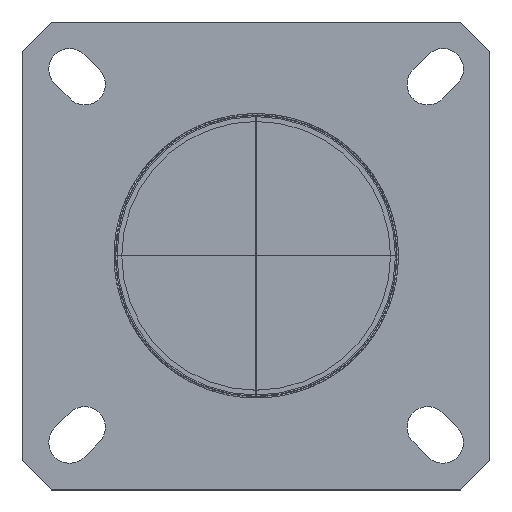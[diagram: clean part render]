
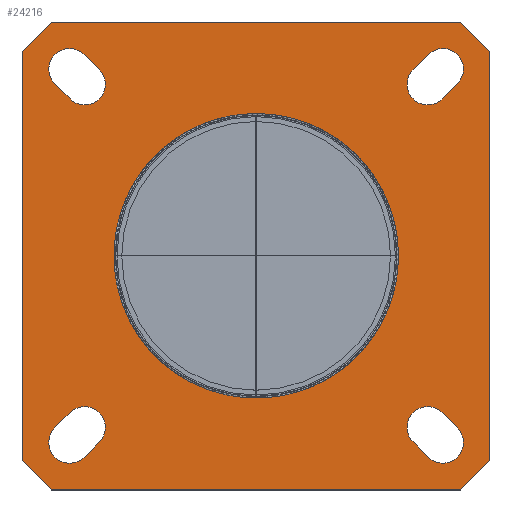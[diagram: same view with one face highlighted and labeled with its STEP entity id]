
A CAD part, top view. The second image highlights one B-rep face of the part: STEP entity #24216.
In plain terms, the highlighted planar face has unit normal (0, 0, 1).
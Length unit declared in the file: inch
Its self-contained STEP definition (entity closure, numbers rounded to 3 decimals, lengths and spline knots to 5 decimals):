
#6998=CARTESIAN_POINT('',(0.,0.,0.));
#6999=DIRECTION('',(0.,0.,1.));
#7000=DIRECTION('',(-1.,0.,0.));
#7001=AXIS2_PLACEMENT_3D('',#6998,#6999,#7000);
#10071=DIRECTION('',(0.707,0.707,0.));
#10072=VECTOR('',#10071,0.128);
#10073=CARTESIAN_POINT('',(-0.725,0.63349,0.));
#10074=LINE('',#10073,#10072);
#10075=DIRECTION('',(1.,0.,0.));
#10076=VECTOR('',#10075,1.26798);
#10077=CARTESIAN_POINT('',(-0.63449,0.724,0.));
#10078=LINE('',#10077,#10076);
#10079=DIRECTION('',(0.707,-0.707,0.));
#10080=VECTOR('',#10079,0.128);
#10081=CARTESIAN_POINT('',(0.63349,0.724,0.));
#10082=LINE('',#10081,#10080);
#10083=DIRECTION('',(0.,-1.,0.));
#10084=VECTOR('',#10083,1.26798);
#10085=CARTESIAN_POINT('',(0.724,0.63349,0.));
#10086=LINE('',#10085,#10084);
#10087=DIRECTION('',(-0.707,-0.707,0.));
#10088=VECTOR('',#10087,0.128);
#10089=CARTESIAN_POINT('',(0.724,-0.63449,0.));
#10090=LINE('',#10089,#10088);
#10091=DIRECTION('',(-1.,0.,0.));
#10092=VECTOR('',#10091,1.26798);
#10093=CARTESIAN_POINT('',(0.63349,-0.725,0.));
#10094=LINE('',#10093,#10092);
#10095=DIRECTION('',(-0.707,0.707,0.));
#10096=VECTOR('',#10095,0.128);
#10097=CARTESIAN_POINT('',(-0.63449,-0.725,0.));
#10098=LINE('',#10097,#10096);
#10099=DIRECTION('',(0.,1.,0.));
#10100=VECTOR('',#10099,1.26798);
#10101=CARTESIAN_POINT('',(-0.725,-0.63449,0.));
#10102=LINE('',#10101,#10100);
#10103=DIRECTION('',(-0.707,-0.707,0.));
#10104=VECTOR('',#10103,0.06647);
#10105=CARTESIAN_POINT('',(-0.57625,-0.48575,0.));
#10106=LINE('',#10105,#10104);
#10107=CARTESIAN_POINT('',(-0.578,-0.578,0.));
#10108=DIRECTION('',(0.,0.,1.));
#10109=DIRECTION('',(-0.707,0.707,0.));
#10110=AXIS2_PLACEMENT_3D('',#10107,#10108,#10109);
#10112=DIRECTION('',(0.707,0.707,0.));
#10113=VECTOR('',#10112,0.06647);
#10114=CARTESIAN_POINT('',(-0.53275,-0.62325,0.));
#10115=LINE('',#10114,#10113);
#10116=CARTESIAN_POINT('',(-0.531,-0.531,0.));
#10117=DIRECTION('',(0.,0.,1.));
#10118=DIRECTION('',(0.707,-0.707,0.));
#10119=AXIS2_PLACEMENT_3D('',#10116,#10117,#10118);
#10121=DIRECTION('',(0.707,-0.707,0.));
#10122=VECTOR('',#10121,0.06647);
#10123=CARTESIAN_POINT('',(-0.62325,0.53275,0.));
#10124=LINE('',#10123,#10122);
#10125=CARTESIAN_POINT('',(-0.531,0.531,0.));
#10126=DIRECTION('',(0.,0.,1.));
#10127=DIRECTION('',(-0.707,-0.707,0.));
#10128=AXIS2_PLACEMENT_3D('',#10125,#10126,#10127);
#10130=DIRECTION('',(-0.707,0.707,0.));
#10131=VECTOR('',#10130,0.06647);
#10132=CARTESIAN_POINT('',(-0.48575,0.57625,0.));
#10133=LINE('',#10132,#10131);
#10134=CARTESIAN_POINT('',(-0.578,0.578,0.));
#10135=DIRECTION('',(0.,0.,1.));
#10136=DIRECTION('',(0.707,0.707,0.));
#10137=AXIS2_PLACEMENT_3D('',#10134,#10135,#10136);
#10139=DIRECTION('',(-0.707,-0.707,0.));
#10140=VECTOR('',#10139,0.06647);
#10141=CARTESIAN_POINT('',(0.53275,0.62325,0.));
#10142=LINE('',#10141,#10140);
#10143=CARTESIAN_POINT('',(0.531,0.531,0.));
#10144=DIRECTION('',(0.,0.,1.));
#10145=DIRECTION('',(-0.707,0.707,0.));
#10146=AXIS2_PLACEMENT_3D('',#10143,#10144,#10145);
#10148=DIRECTION('',(0.707,0.707,0.));
#10149=VECTOR('',#10148,0.06647);
#10150=CARTESIAN_POINT('',(0.57625,0.48575,0.));
#10151=LINE('',#10150,#10149);
#10152=CARTESIAN_POINT('',(0.578,0.578,0.));
#10153=DIRECTION('',(0.,0.,1.));
#10154=DIRECTION('',(0.707,-0.707,0.));
#10155=AXIS2_PLACEMENT_3D('',#10152,#10153,#10154);
#10157=CARTESIAN_POINT('',(0.531,-0.531,0.));
#10158=DIRECTION('',(0.,0.,1.));
#10159=DIRECTION('',(0.707,0.707,0.));
#10160=AXIS2_PLACEMENT_3D('',#10157,#10158,#10159);
#10162=DIRECTION('',(0.707,-0.707,0.));
#10163=VECTOR('',#10162,0.06647);
#10164=CARTESIAN_POINT('',(0.48575,-0.57625,0.));
#10165=LINE('',#10164,#10163);
#10166=CARTESIAN_POINT('',(0.578,-0.578,0.));
#10167=DIRECTION('',(0.,0.,1.));
#10168=DIRECTION('',(-0.707,-0.707,0.));
#10169=AXIS2_PLACEMENT_3D('',#10166,#10167,#10168);
#10171=DIRECTION('',(-0.707,0.707,0.));
#10172=VECTOR('',#10171,0.06647);
#10173=CARTESIAN_POINT('',(0.62325,-0.53275,0.));
#10174=LINE('',#10173,#10172);
#10375=CARTESIAN_POINT('',(0.,0.,0.));
#10376=DIRECTION('',(0.,0.,1.));
#10377=DIRECTION('',(1.,0.,0.));
#10378=AXIS2_PLACEMENT_3D('',#10375,#10376,#10377);
#19291=CARTESIAN_POINT('',(-0.725,0.63349,0.));
#19292=CARTESIAN_POINT('',(-0.63449,0.724,0.));
#19293=VERTEX_POINT('',#19291);
#19294=VERTEX_POINT('',#19292);
#19295=CARTESIAN_POINT('',(0.63349,0.724,0.));
#19296=VERTEX_POINT('',#19295);
#19297=CARTESIAN_POINT('',(0.724,0.63349,0.));
#19298=VERTEX_POINT('',#19297);
#19299=CARTESIAN_POINT('',(0.724,-0.63449,0.));
#19300=VERTEX_POINT('',#19299);
#19301=CARTESIAN_POINT('',(0.63349,-0.725,0.));
#19302=VERTEX_POINT('',#19301);
#19303=CARTESIAN_POINT('',(-0.63449,-0.725,0.));
#19304=VERTEX_POINT('',#19303);
#19305=CARTESIAN_POINT('',(-0.725,-0.63449,0.));
#19306=VERTEX_POINT('',#19305);
#19307=CARTESIAN_POINT('',(-0.57625,-0.48575,0.));
#19308=CARTESIAN_POINT('',(-0.62325,-0.53275,0.));
#19309=VERTEX_POINT('',#19307);
#19310=VERTEX_POINT('',#19308);
#19311=CARTESIAN_POINT('',(-0.53275,-0.62325,0.));
#19312=VERTEX_POINT('',#19311);
#19313=CARTESIAN_POINT('',(-0.48575,-0.57625,0.));
#19314=VERTEX_POINT('',#19313);
#19315=CARTESIAN_POINT('',(-0.62325,0.53275,0.));
#19316=CARTESIAN_POINT('',(-0.57625,0.48575,0.));
#19317=VERTEX_POINT('',#19315);
#19318=VERTEX_POINT('',#19316);
#19319=CARTESIAN_POINT('',(-0.48575,0.57625,0.));
#19320=VERTEX_POINT('',#19319);
#19321=CARTESIAN_POINT('',(-0.53275,0.62325,0.));
#19322=VERTEX_POINT('',#19321);
#19323=CARTESIAN_POINT('',(0.53275,0.62325,0.));
#19324=CARTESIAN_POINT('',(0.48575,0.57625,0.));
#19325=VERTEX_POINT('',#19323);
#19326=VERTEX_POINT('',#19324);
#19327=CARTESIAN_POINT('',(0.57625,0.48575,0.));
#19328=VERTEX_POINT('',#19327);
#19329=CARTESIAN_POINT('',(0.62325,0.53275,0.));
#19330=VERTEX_POINT('',#19329);
#19331=CARTESIAN_POINT('',(0.57625,-0.48575,0.));
#19332=CARTESIAN_POINT('',(0.48575,-0.57625,0.));
#19333=VERTEX_POINT('',#19331);
#19334=VERTEX_POINT('',#19332);
#19335=CARTESIAN_POINT('',(0.53275,-0.62325,0.));
#19336=VERTEX_POINT('',#19335);
#19337=CARTESIAN_POINT('',(0.62325,-0.53275,0.));
#19338=VERTEX_POINT('',#19337);
#19387=CARTESIAN_POINT('',(0.44,0.,0.));
#19388=CARTESIAN_POINT('',(-0.44,0.,0.));
#19389=VERTEX_POINT('',#19387);
#19390=VERTEX_POINT('',#19388);
#24148=CARTESIAN_POINT('',(0.,0.,0.));
#24149=DIRECTION('',(0.,0.,-1.));
#24150=DIRECTION('',(0.,-1.,0.));
#24151=AXIS2_PLACEMENT_3D('',#24148,#24149,#24150);
#24152=PLANE('',#24151);
#24154=ORIENTED_EDGE('',*,*,#24153,.T.);
#24156=ORIENTED_EDGE('',*,*,#24155,.T.);
#24158=ORIENTED_EDGE('',*,*,#24157,.T.);
#24160=ORIENTED_EDGE('',*,*,#24159,.T.);
#24162=ORIENTED_EDGE('',*,*,#24161,.T.);
#24164=ORIENTED_EDGE('',*,*,#24163,.T.);
#24166=ORIENTED_EDGE('',*,*,#24165,.T.);
#24168=ORIENTED_EDGE('',*,*,#24167,.T.);
#24169=EDGE_LOOP('',(#24154,#24156,#24158,#24160,#24162,#24164,#24166,#24168));
#24170=FACE_OUTER_BOUND('',#24169,.F.);
#24172=ORIENTED_EDGE('',*,*,#24171,.T.);
#24174=ORIENTED_EDGE('',*,*,#24173,.T.);
#24176=ORIENTED_EDGE('',*,*,#24175,.T.);
#24178=ORIENTED_EDGE('',*,*,#24177,.T.);
#24179=EDGE_LOOP('',(#24172,#24174,#24176,#24178));
#24180=FACE_BOUND('',#24179,.F.);
#24182=ORIENTED_EDGE('',*,*,#24181,.T.);
#24184=ORIENTED_EDGE('',*,*,#24183,.T.);
#24186=ORIENTED_EDGE('',*,*,#24185,.T.);
#24188=ORIENTED_EDGE('',*,*,#24187,.T.);
#24189=EDGE_LOOP('',(#24182,#24184,#24186,#24188));
#24190=FACE_BOUND('',#24189,.F.);
#24192=ORIENTED_EDGE('',*,*,#24191,.T.);
#24194=ORIENTED_EDGE('',*,*,#24193,.T.);
#24196=ORIENTED_EDGE('',*,*,#24195,.T.);
#24198=ORIENTED_EDGE('',*,*,#24197,.T.);
#24199=EDGE_LOOP('',(#24192,#24194,#24196,#24198));
#24200=FACE_BOUND('',#24199,.F.);
#24202=ORIENTED_EDGE('',*,*,#24201,.T.);
#24204=ORIENTED_EDGE('',*,*,#24203,.T.);
#24206=ORIENTED_EDGE('',*,*,#24205,.T.);
#24208=ORIENTED_EDGE('',*,*,#24207,.T.);
#24209=EDGE_LOOP('',(#24202,#24204,#24206,#24208));
#24210=FACE_BOUND('',#24209,.F.);
#24212=ORIENTED_EDGE('',*,*,#24211,.T.);
#24213=ORIENTED_EDGE('',*,*,#23337,.T.);
#24214=EDGE_LOOP('',(#24212,#24213));
#24215=FACE_BOUND('',#24214,.F.);
#24216=ADVANCED_FACE('',(#24170,#24180,#24190,#24200,#24210,#24215),#24152,.F.);
#7002=CIRCLE('',#7001,0.44);
#10111=CIRCLE('',#10110,0.064);
#10120=CIRCLE('',#10119,0.064);
#10129=CIRCLE('',#10128,0.064);
#10138=CIRCLE('',#10137,0.064);
#10147=CIRCLE('',#10146,0.064);
#10156=CIRCLE('',#10155,0.064);
#10161=CIRCLE('',#10160,0.064);
#10170=CIRCLE('',#10169,0.064);
#10379=CIRCLE('',#10378,0.44);
#23337=EDGE_CURVE('',#19390,#19389,#7002,.T.);
#24153=EDGE_CURVE('',#19293,#19294,#10074,.T.);
#24155=EDGE_CURVE('',#19294,#19296,#10078,.T.);
#24157=EDGE_CURVE('',#19296,#19298,#10082,.T.);
#24159=EDGE_CURVE('',#19298,#19300,#10086,.T.);
#24161=EDGE_CURVE('',#19300,#19302,#10090,.T.);
#24163=EDGE_CURVE('',#19302,#19304,#10094,.T.);
#24165=EDGE_CURVE('',#19304,#19306,#10098,.T.);
#24167=EDGE_CURVE('',#19306,#19293,#10102,.T.);
#24171=EDGE_CURVE('',#19309,#19310,#10106,.T.);
#24173=EDGE_CURVE('',#19310,#19312,#10111,.T.);
#24175=EDGE_CURVE('',#19312,#19314,#10115,.T.);
#24177=EDGE_CURVE('',#19314,#19309,#10120,.T.);
#24181=EDGE_CURVE('',#19317,#19318,#10124,.T.);
#24183=EDGE_CURVE('',#19318,#19320,#10129,.T.);
#24185=EDGE_CURVE('',#19320,#19322,#10133,.T.);
#24187=EDGE_CURVE('',#19322,#19317,#10138,.T.);
#24191=EDGE_CURVE('',#19325,#19326,#10142,.T.);
#24193=EDGE_CURVE('',#19326,#19328,#10147,.T.);
#24195=EDGE_CURVE('',#19328,#19330,#10151,.T.);
#24197=EDGE_CURVE('',#19330,#19325,#10156,.T.);
#24201=EDGE_CURVE('',#19333,#19334,#10161,.T.);
#24203=EDGE_CURVE('',#19334,#19336,#10165,.T.);
#24205=EDGE_CURVE('',#19336,#19338,#10170,.T.);
#24207=EDGE_CURVE('',#19338,#19333,#10174,.T.);
#24211=EDGE_CURVE('',#19389,#19390,#10379,.T.);
